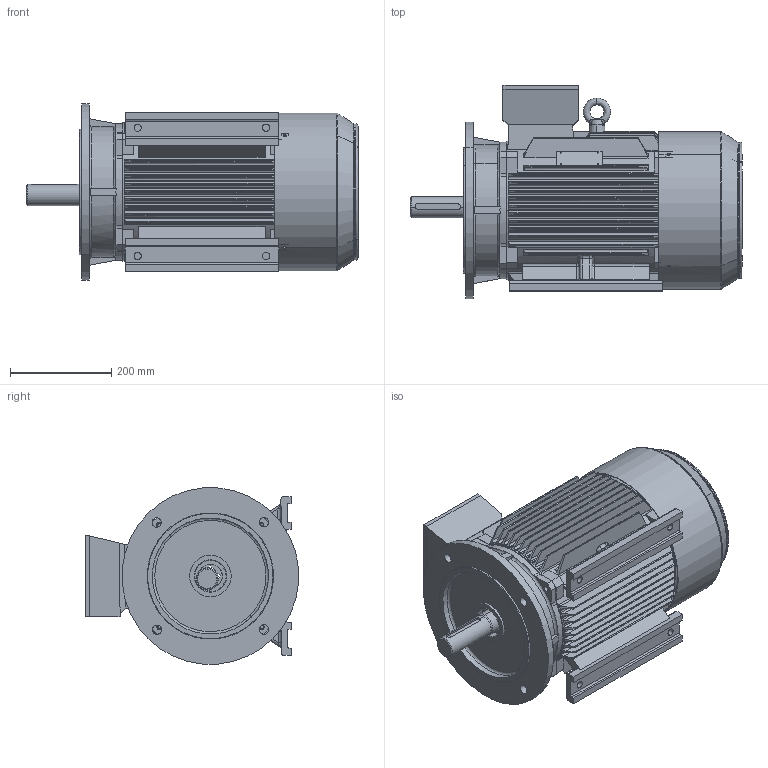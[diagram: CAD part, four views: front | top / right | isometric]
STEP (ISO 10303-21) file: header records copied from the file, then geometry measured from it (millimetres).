
FILE_DESCRIPTION (( 'STEP AP203' ), '1' );
FILE_NAME ('M3-160L-B35-FF_07-23.STEP', '2023-07-20T06:47:25', ( '' ), ( '' ), 'SwSTEP 2.0', 'SolidWorks 2021', '' );
FILE_SCHEMA (( 'CONFIG_CONTROL_DESIGN' ));
Length unit declared in the file: millimetre
Products named in the file (13): __i_MN2-160_-_+_^160L-FF-B35(2)_M3-160L-B35-FF_07-23; Y2-160_______-_+_^__+___Y2-160_____-_+__160L-FF-B35(2)_M3-160L-B35-FF_07-23; 160L-FF-B35(2)^M3-160L-B35-FF_07-23; __+___Y2-160_____-_+_^160L-FF-B35(2)_M3-160L-B35-FF_07-23; M3-160L-B35-FF_07-23; 160L-B35_nur Flansch; Y2-160L+___(B3)_-_+_^160L-FF-B35(2)_M3-160L-B35-FF_07-23; Eyebolts GB_GB_FASTENER_SCREWS_FRS M12-N^160L-FF-B35(2)_M3-160L-B35-FF_07-23; Y2-160-2___-___-_+_^160L-FF-B35(2)_M3-160L-B35-FF_07-23; Y2-160_shaft^160L-FF-B35(2)_M3-160L-B35-FF_07-23; 160L-FF-B35(2)^160L-B35_nur Flansch; Y2-160-180_______-_+_^__+___Y2-160_____-_+__160L-FF-B35(2)_M3-160L-B35-FF_07-23; Y2-160-Flansch_IMB5^160L-FF-B35(2)_160L-B35_nur Flansch
Assembly tree (12 placements, depth 4):
  M3-160L-B35-FF_07-23
    160L-FF-B35(2)^M3-160L-B35-FF_07-23
      __+___Y2-160_____-_+_^160L-FF-B35(2)_M3-160L-B35-FF_07-23
        Y2-160-180_______-_+_^__+___Y2-160_____-_+__160L-FF-B35(2)_M3-160L-B35-FF_07-23
        Y2-160_______-_+_^__+___Y2-160_____-_+__160L-FF-B35(2)_M3-160L-B35-FF_07-23
      __i_MN2-160_-_+_^160L-FF-B35(2)_M3-160L-B35-FF_07-23
      Y2-160L+___(B3)_-_+_^160L-FF-B35(2)_M3-160L-B35-FF_07-23
      Y2-160-2___-___-_+_^160L-FF-B35(2)_M3-160L-B35-FF_07-23
      Eyebolts GB_GB_FASTENER_SCREWS_FRS M12-N^160L-FF-B35(2)_M3-160L-B35-FF_07-23
      Y2-160_shaft^160L-FF-B35(2)_M3-160L-B35-FF_07-23
    160L-B35_nur Flansch
      160L-FF-B35(2)^160L-B35_nur Flansch
        Y2-160-Flansch_IMB5^160L-FF-B35(2)_160L-B35_nur Flansch
Bounding box: 657 x 421.52 x 348.73 mm (x, y, z)
Volume: 9727584.3 mm3; surface area: 2435601.1 mm2
Topology: 8 solids, 8 shells, 1313 faces, 3486 edges, 2188 vertices
Faces by surface type: cylinder 585, plane 403, bspline 263, cone 62
Entity records: 78478 total; most frequent: CARTESIAN_POINT 47709, ORIENTED_EDGE 6836, DIRECTION 4952, EDGE_CURVE 3418, VERTEX_POINT 2188, AXIS2_PLACEMENT_3D 1774, EDGE_LOOP 1498, VECTOR 1404
